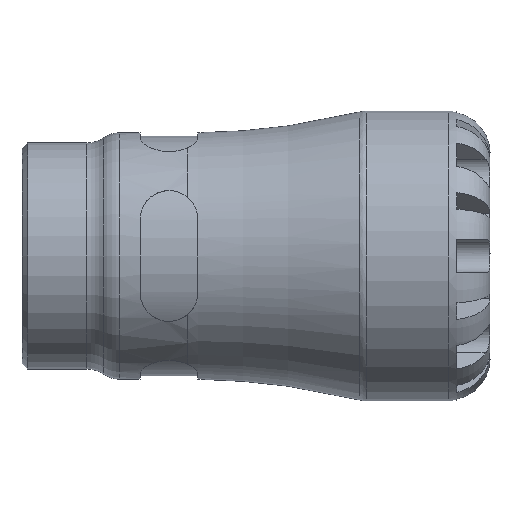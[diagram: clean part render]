
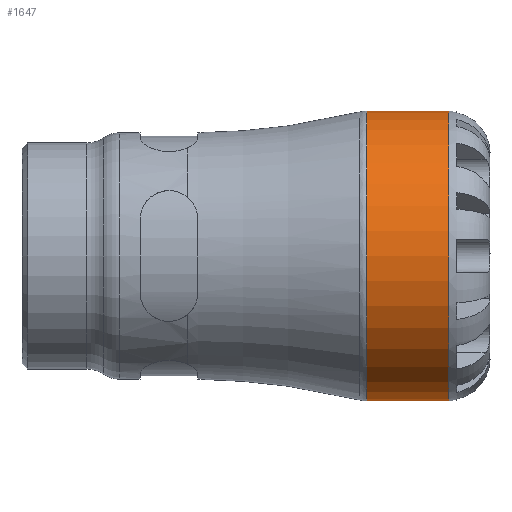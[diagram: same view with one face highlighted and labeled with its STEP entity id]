
A CAD part, front view. The second image highlights one B-rep face of the part: STEP entity #1647.
In plain terms, the highlighted cylindrical face has radius 35 mm (diameter 70 mm), a full revolution.
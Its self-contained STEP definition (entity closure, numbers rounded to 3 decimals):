
#259=FACE_BOUND('',#422,.T.);
#301=FACE_OUTER_BOUND('',#421,.T.);
#421=EDGE_LOOP('',(#1250));
#422=EDGE_LOOP('',(#1251));
#560=CIRCLE('',#1814,35.);
#561=CIRCLE('',#1816,35.);
#748=VERTEX_POINT('',#2950);
#749=VERTEX_POINT('',#2953);
#932=EDGE_CURVE('',#748,#748,#560,.T.);
#933=EDGE_CURVE('',#749,#749,#561,.T.);
#1250=ORIENTED_EDGE('',*,*,#933,.F.);
#1251=ORIENTED_EDGE('',*,*,#932,.F.);
#1594=CYLINDRICAL_SURFACE('',#1815,35.);
#1647=ADVANCED_FACE('',(#301,#259),#1594,.T.);
#1814=AXIS2_PLACEMENT_3D('',#2951,#2127,#2128);
#1815=AXIS2_PLACEMENT_3D('',#2952,#2129,#2130);
#1816=AXIS2_PLACEMENT_3D('',#2954,#2131,#2132);
#2127=DIRECTION('center_axis',(-1.,0.,0.));
#2128=DIRECTION('ref_axis',(0.,-1.,0.));
#2129=DIRECTION('center_axis',(1.,0.,0.));
#2130=DIRECTION('ref_axis',(0.,1.,0.));
#2131=DIRECTION('center_axis',(1.,0.,0.));
#2132=DIRECTION('ref_axis',(0.,0.,-1.));
#2950=CARTESIAN_POINT('',(83.199,35.,0.));
#2951=CARTESIAN_POINT('Origin',(83.199,0.,0.));
#2952=CARTESIAN_POINT('Origin',(92.67,0.,0.));
#2953=CARTESIAN_POINT('',(103.,35.,0.));
#2954=CARTESIAN_POINT('Origin',(103.,0.,0.));
